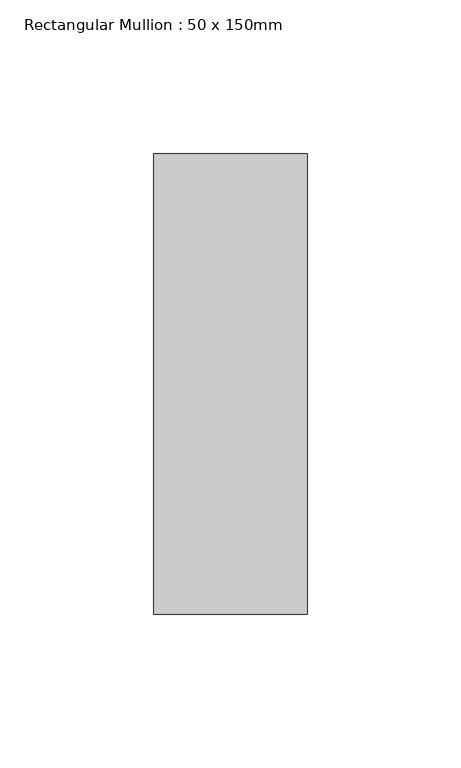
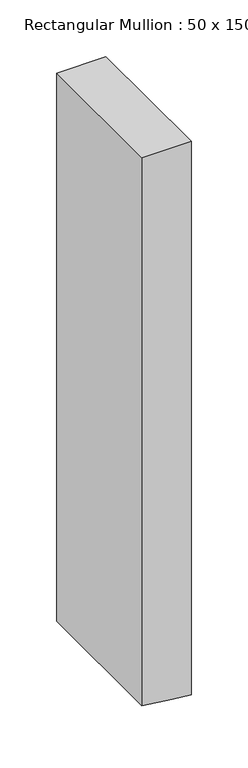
"""IFC4 building model written with IfcOpenShell, lengths in millimetres: member geometry, Rectangular Mullion : 50 x 150mm."""

import ifcopenshell
import ifcopenshell.guid

model = None  # the IFC model being written
_history = None  # IfcOwnerHistory: only IFC2X3 demands one
_inside = {}  # id of a spatial element -> (the spatial element, [elements in it])
_under = {}  # id of a project, library or spatial element -> (it, [spatial elements below it])
_declared = {}  # id of a project -> (the project, [libraries it declares])
_typed = {}  # id of a type object -> (the type object, [elements of that type])
_made_of = {}  # id of a material, layer set ... -> (it, [elements and type objects made of it])


def new_model(schema):
    """Start an empty IFC model of exactly this schema.

    Asked for "IFC4X3", IfcOpenShell would pick the latest addendum, in which some entities
    have other attributes; the version numbers below select the first issue.
    IFC2X3 requires an IfcOwnerHistory on every rooted entity: one is made here for all.
    """
    global model, _history
    if schema == "IFC4X3":
        model = ifcopenshell.file(schema_version=(4, 3, 0, 0))
    else:
        model = ifcopenshell.file(schema=schema)
    _inside.clear()
    _under.clear()
    _declared.clear()
    _typed.clear()
    _made_of.clear()
    _history = None
    if model.schema == "IFC2X3":
        org = make("IfcOrganization", Name="unknown")
        user = make(
            "IfcPersonAndOrganization",
            ThePerson=make("IfcPerson", FamilyName="unknown"),
            TheOrganization=org,
        )
        app = make(
            "IfcApplication",
            ApplicationDeveloper=org,
            Version="unknown",
            ApplicationFullName="unknown",
            ApplicationIdentifier="unknown",
        )
        _history = make(
            "IfcOwnerHistory",
            OwningUser=user,
            OwningApplication=app,
            ChangeAction="ADDED",
            CreationDate=0,
        )
    return model


def make(cls, **values):
    """One entity of the class cls with the attributes given. An attribute that is None is left unset."""
    return model.create_entity(
        cls, **{name: value for name, value in values.items() if value is not None}
    )


def rooted(cls, **values):
    """An entity with a GlobalId (a new one), such as an element, a storey or a relation."""
    return make(cls, GlobalId=ifcopenshell.guid.new(), OwnerHistory=_history, **values)


def si_unit(unit_type, name, prefix=None):
    """IfcSIUnit, for example si_unit("LENGTHUNIT", "METRE", prefix="MILLI")."""
    return make("IfcSIUnit", UnitType=unit_type, Prefix=prefix, Name=name)


def assignment(units):
    """IfcUnitAssignment: the units of a project."""
    return None if units is None else make("IfcUnitAssignment", Units=units)


def point(xyz):
    """IfcCartesianPoint."""
    return None if xyz is None else make("IfcCartesianPoint", Coordinates=xyz)


def direction(xyz):
    """IfcDirection."""
    return None if xyz is None else make("IfcDirection", DirectionRatios=xyz)


def frame(location, z_axis=None, x_axis=None):
    """IfcAxis2Placement3D, a coordinate frame: its origin and axes. An axis left out is left unset."""
    return make(
        "IfcAxis2Placement3D",
        Location=point(location),
        Axis=direction(z_axis),
        RefDirection=direction(x_axis),
    )


def origin():
    """The frame at (0, 0, 0) with its axes left unset."""
    return frame((0.0, 0.0, 0.0))


def place(relative_to, where):
    """IfcLocalPlacement: puts the frame where relative to a parent placement (None: the world)."""
    return make(
        "IfcLocalPlacement", PlacementRelTo=relative_to, RelativePlacement=where
    )


def context(
    kind, dimensions, precision=None, world=None, true_north=None, identifier=None
):
    """IfcGeometricRepresentationContext, for example the 3D "Model" context."""
    return make(
        "IfcGeometricRepresentationContext",
        ContextIdentifier=identifier,
        ContextType=kind,
        CoordinateSpaceDimension=dimensions,
        Precision=precision,
        WorldCoordinateSystem=world,
        TrueNorth=true_north,
    )


def project(units=None, contexts=None):
    """IfcProject with its units and contexts."""
    return rooted(
        "IfcProject",
        Name="project",
        RepresentationContexts=contexts,
        UnitsInContext=assignment(units),
    )


def spatial(cls, under=None, at=None, **own):
    """A site, building, storey or space (cls), placed at a placement, below another one or the project."""
    s = rooted(cls, ObjectPlacement=at, **own)
    if under is not None:
        _under.setdefault(under.id(), (under, []))[1].append(s)
    return s


def polyline(points):
    """IfcPolyline through the points."""
    return make("IfcPolyline", Points=[point(p) for p in points])


def outline(outer, holes=None, kind="AREA"):
    """IfcArbitraryClosedProfileDef: a profile drawn as a closed curve; with holes, ...WithVoids."""
    if holes is None:
        return make("IfcArbitraryClosedProfileDef", ProfileType=kind, OuterCurve=outer)
    return make(
        "IfcArbitraryProfileDefWithVoids",
        ProfileType=kind,
        OuterCurve=outer,
        InnerCurves=holes,
    )


def extrude(swept, where, along, depth):
    """IfcExtrudedAreaSolid: the profile swept, set in the frame where, extruded along a direction by depth."""
    return make(
        "IfcExtrudedAreaSolid",
        SweptArea=swept,
        Position=where,
        ExtrudedDirection=direction(along),
        Depth=depth,
    )


def shape(context_of_items, identifier, shape_type, items):
    """IfcShapeRepresentation: the items that make up one representation, for example the "Body"."""
    return make(
        "IfcShapeRepresentation",
        ContextOfItems=context_of_items,
        RepresentationIdentifier=identifier,
        RepresentationType=shape_type,
        Items=items,
    )


def source(mapping_origin, context_of_items, identifier, shape_type, items):
    """IfcRepresentationMap: a shape defined once, which mapped items show again and again."""
    return make(
        "IfcRepresentationMap",
        MappingOrigin=mapping_origin,
        MappedRepresentation=shape(context_of_items, identifier, shape_type, items),
    )


def transform(
    local_origin,
    x_axis=None,
    y_axis=None,
    z_axis=None,
    scale=None,
    scale2=None,
    scale3=None,
    uniform=True,
):
    """IfcCartesianTransformationOperator3D, or its non-uniform kind. x_axis, y_axis, z_axis: its Axis1, 2, 3."""
    if uniform:
        return make(
            "IfcCartesianTransformationOperator3D",
            Axis1=direction(x_axis),
            Axis2=direction(y_axis),
            LocalOrigin=point(local_origin),
            Scale=scale,
            Axis3=direction(z_axis),
        )
    return make(
        "IfcCartesianTransformationOperator3DnonUniform",
        Axis1=direction(x_axis),
        Axis2=direction(y_axis),
        LocalOrigin=point(local_origin),
        Scale=scale,
        Axis3=direction(z_axis),
        Scale2=scale2,
        Scale3=scale3,
    )


def mapped(mapping_source, mapping_target):
    """IfcMappedItem: shows the shape of a source again, moved by a transform."""
    return make(
        "IfcMappedItem", MappingSource=mapping_source, MappingTarget=mapping_target
    )


def made_of(thing, what):
    """Note that an element or type object is made of a material, layer set ...; save() writes the relation."""
    if what is not None:
        _made_of.setdefault(what.id(), (what, []))[1].append(thing)
    return thing


def element(
    cls,
    number,
    at=None,
    inside=None,
    cuts=None,
    type_object=None,
    material=None,
    context=None,
    identifier="Body",
    shape_type=None,
    held_by="IfcProductDefinitionShape",
    body=None,
    shapes=None,
    **own,
):
    """One element of the class cls, such as IfcWall. Its Tag is "e" and its number.

    at: its placement. inside: the storey or other place that contains it. cuts: it is an
    opening in that element (IfcRelVoidsElement). A single representation is given by context,
    identifier, shape_type and body (its items); several are given by shapes. held_by: the class
    of the entity that holds the representations. save() writes the other relations.
    """
    e = rooted(cls, Tag="e%d" % number, ObjectPlacement=at, **own)
    if body is not None:
        shapes = [shape(context, identifier, shape_type, body)]
    if shapes is not None:
        e.Representation = make(held_by, Representations=shapes)
    if inside is not None:
        _inside.setdefault(inside.id(), (inside, []))[1].append(e)
    if cuts is not None:
        rooted(
            "IfcRelVoidsElement", RelatingBuildingElement=cuts, RelatedOpeningElement=e
        )
    if type_object is not None:
        _typed.setdefault(type_object.id(), (type_object, []))[1].append(e)
    return made_of(e, material)


def aggregate(whole, parts):
    """IfcRelAggregates: a whole, such as a stair, and the parts it consists of."""
    return rooted("IfcRelAggregates", RelatingObject=whole, RelatedObjects=parts)


def save(model, path):
    """Write the relations noted so far, then the file.

    IfcRelAggregates (storeys below a building ...), IfcRelContainedInSpatialStructure (elements
    in a storey), IfcRelDefinesByType, IfcRelAssociatesMaterial and IfcRelDeclares: one each for
    every whole, place, type object, material and project.
    """
    for whole, parts in _under.values():
        aggregate(whole, parts)
    for where, things in _inside.values():
        rooted(
            "IfcRelContainedInSpatialStructure",
            RelatedElements=things,
            RelatingStructure=where,
        )
    for kind, things in _typed.values():
        rooted("IfcRelDefinesByType", RelatedObjects=things, RelatingType=kind)
    for what, things in _made_of.values():
        rooted("IfcRelAssociatesMaterial", RelatedObjects=things, RelatingMaterial=what)
    for by, libraries in _declared.values():
        rooted("IfcRelDeclares", RelatingContext=by, RelatedDefinitions=libraries)
    model.write(path)


def rectangular_mullion_50_x_150mm_3d9a855c(model_context):
    return source(origin(), model_context, "Body", "SweptSolid", [
        extrude(outline(polyline([(0.0, 25.0), (0.0, -25.0), (-589.4159617, -25.0), (-592.896121, 5.6423937), (-595.0946291, 25.0), (0.0, 25.0)])), frame((0.0, -75.0, 0.0), z_axis=(0.0, 1.0, 0.0), x_axis=(0.0, 0.0, 1.0)), (0.0, 0.0, 1.0), 150.0),
    ])


if __name__ == "__main__":
    model = new_model("IFC4")
    model_context = context("Model", 3, world=origin())
    ifc_project = project(units=[si_unit("LENGTHUNIT", "METRE", prefix="MILLI")], contexts=[model_context])
    site = spatial("IfcSite", under=ifc_project)
    building = spatial("IfcBuilding", under=site)
    placement = place(None, origin())
    rectangular_mullion_50_x_150mm_shape = rectangular_mullion_50_x_150mm_3d9a855c(model_context)
    element("IfcMember", 1, ObjectType="Rectangular Mullion : 50 x 150mm", at=placement, inside=building, context=model_context, shape_type="MappedRepresentation", body=[
        mapped(rectangular_mullion_50_x_150mm_shape, transform((0.0, 0.0, 0.0), x_axis=(1.0, 0.0, 0.0), y_axis=(0.0, 1.0, 0.0), z_axis=(0.0, 0.0, 1.0))),
    ])
    save(model, "model.ifc")
